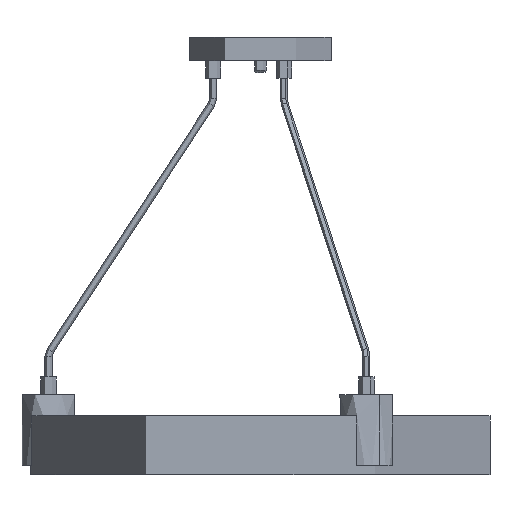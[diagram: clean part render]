
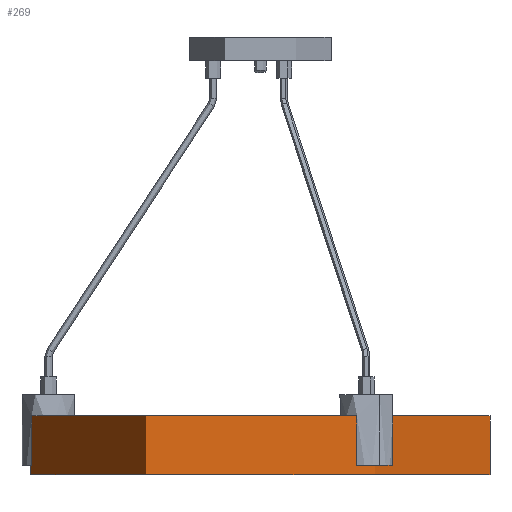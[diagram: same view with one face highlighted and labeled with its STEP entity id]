
A CAD part, front view. The second image highlights one B-rep face of the part: STEP entity #269.
In plain terms, the highlighted cylindrical face has radius 195 mm (diameter 390 mm), a partial arc.
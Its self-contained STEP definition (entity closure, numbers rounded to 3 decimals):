
#108=B_SPLINE_CURVE_WITH_KNOTS('',1,(#4266,#4267),.UNSPECIFIED.,.F.,.F.,
(2,2),(82.784,132.784),.UNSPECIFIED.);
#119=B_SPLINE_CURVE_WITH_KNOTS('',1,(#4330,#4331),.UNSPECIFIED.,.F.,.F.,
(2,2),(82.784,132.784),.UNSPECIFIED.);
#269=ADVANCED_FACE('',(#394),#1916,.T.);
#394=FACE_OUTER_BOUND('',#519,.T.);
#519=EDGE_LOOP('',(#989,#990,#991,#992));
#989=ORIENTED_EDGE('',*,*,#1279,.T.);
#990=ORIENTED_EDGE('',*,*,#1280,.T.);
#991=ORIENTED_EDGE('',*,*,#1254,.F.);
#992=ORIENTED_EDGE('',*,*,#1278,.F.);
#1254=EDGE_CURVE('',#1775,#1774,#108,.T.);
#1278=EDGE_CURVE('',#1786,#1775,#1466,.T.);
#1279=EDGE_CURVE('',#1786,#1787,#119,.T.);
#1280=EDGE_CURVE('',#1787,#1774,#1467,.T.);
#1466=TRIMMED_CURVE($,#1612,(#4328),(#4329),.T.,.CARTESIAN.);
#1467=TRIMMED_CURVE($,#1613,(#4333),(#4334),.T.,.CARTESIAN.);
#1612=CIRCLE('',#2241,195.);
#1613=CIRCLE('',#2242,195.);
#1774=VERTEX_POINT('',#4243);
#1775=VERTEX_POINT('',#4244);
#1786=VERTEX_POINT('',#4255);
#1787=VERTEX_POINT('',#4256);
#1916=CYLINDRICAL_SURFACE('',#2225,195.);
#2225=AXIS2_PLACEMENT_3D('',#4239,#2605,$);
#2241=AXIS2_PLACEMENT_3D($,#4327,#2635,#2636);
#2242=AXIS2_PLACEMENT_3D($,#4332,#2637,#2638);
#2605=DIRECTION('',(0.,0.,-1.));
#2635=DIRECTION('',(0.,0.,-1.));
#2636=DIRECTION('',(1.,0.,0.));
#2637=DIRECTION('',(0.,0.,-1.));
#2638=DIRECTION('',(1.,0.,0.));
#4239=CARTESIAN_POINT('',(1712.951,552.375,-189.412));
#4243=CARTESIAN_POINT('',(1517.951,552.375,-164.412));
#4244=CARTESIAN_POINT('',(1517.951,552.375,-214.412));
#4255=CARTESIAN_POINT('',(1907.951,552.375,-214.412));
#4256=CARTESIAN_POINT('',(1907.951,552.375,-164.412));
#4266=CARTESIAN_POINT('',(1517.951,552.375,-214.412));
#4267=CARTESIAN_POINT('',(1517.951,552.375,-164.412));
#4327=CARTESIAN_POINT('',(1712.951,552.375,-214.412));
#4328=CARTESIAN_POINT('',(1907.951,552.375,-214.412));
#4329=CARTESIAN_POINT('',(1517.951,552.375,-214.412));
#4330=CARTESIAN_POINT('',(1907.951,552.375,-214.412));
#4331=CARTESIAN_POINT('',(1907.951,552.375,-164.412));
#4332=CARTESIAN_POINT('',(1712.951,552.375,-164.412));
#4333=CARTESIAN_POINT('',(1907.951,552.375,-164.412));
#4334=CARTESIAN_POINT('',(1517.951,552.375,-164.412));
